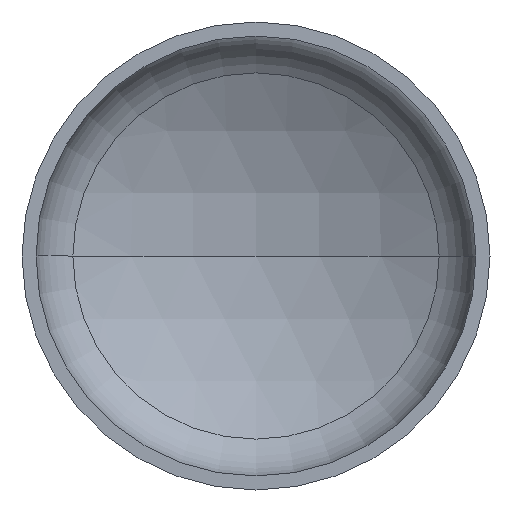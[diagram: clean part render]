
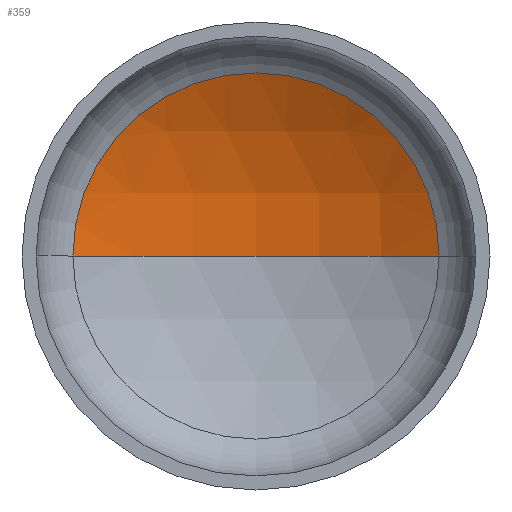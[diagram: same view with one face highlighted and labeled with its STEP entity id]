
A CAD part, front view. The second image highlights one B-rep face of the part: STEP entity #359.
In plain terms, the highlighted spherical face has radius 3040 mm.
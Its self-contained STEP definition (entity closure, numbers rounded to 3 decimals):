
#1 = CARTESIAN_POINT ( 'NONE',  ( 0., -2066.174, 0. ) ) ;
#10 = CARTESIAN_POINT ( 'NONE',  ( 0., 973.826, 0. ) ) ;
#16 = CIRCLE ( 'NONE', #27, 3040. ) ;
#25 = AXIS2_PLACEMENT_3D ( 'NONE', #1, #146, #113 ) ;
#27 = AXIS2_PLACEMENT_3D ( 'NONE', #150, #151, #404 ) ;
#28 = AXIS2_PLACEMENT_3D ( 'NONE', #179, #174, #172 ) ;
#58 = EDGE_CURVE ( 'NONE', #281, #170, #202, .T. ) ;
#60 = EDGE_CURVE ( 'NONE', #101, #281, #16, .T. ) ;
#67 = DIRECTION ( 'NONE',  ( -1., 0., 0. ) ) ;
#69 = EDGE_CURVE ( 'NONE', #101, #170, #343, .T. ) ;
#90 = CARTESIAN_POINT ( 'NONE',  ( 0., -2066.174, 0. ) ) ;
#101 = VERTEX_POINT ( 'NONE', #10 ) ;
#110 = AXIS2_PLACEMENT_3D ( 'NONE', #90, #114, #67 ) ;
#113 = DIRECTION ( 'NONE',  ( 1., 0., 0. ) ) ;
#114 = DIRECTION ( 'NONE',  ( 0., 0., -1. ) ) ;
#115 = ORIENTED_EDGE ( 'NONE', *, *, #69, .F. ) ;
#126 = CARTESIAN_POINT ( 'NONE',  ( 1487.185, 585.219, 0. ) ) ;
#141 = ORIENTED_EDGE ( 'NONE', *, *, #60, .T. ) ;
#146 = DIRECTION ( 'NONE',  ( 0., 0., 1. ) ) ;
#150 = CARTESIAN_POINT ( 'NONE',  ( 0., -2066.174, 0. ) ) ;
#151 = DIRECTION ( 'NONE',  ( 0., 0., -1. ) ) ;
#170 = VERTEX_POINT ( 'NONE', #255 ) ;
#172 = DIRECTION ( 'NONE',  ( 1., 0., 0. ) ) ;
#174 = DIRECTION ( 'NONE',  ( 0., -1., 0. ) ) ;
#179 = CARTESIAN_POINT ( 'NONE',  ( 0., 585.219, 0. ) ) ;
#202 = CIRCLE ( 'NONE', #28, 1487.185 ) ;
#240 = ORIENTED_EDGE ( 'NONE', *, *, #58, .T. ) ;
#255 = CARTESIAN_POINT ( 'NONE',  ( -1487.185, 585.219, 0. ) ) ;
#281 = VERTEX_POINT ( 'NONE', #126 ) ;
#290 = FACE_OUTER_BOUND ( 'NONE', #396, .T. ) ;
#343 = CIRCLE ( 'NONE', #25, 3040. ) ;
#359 = ADVANCED_FACE ( 'NONE', ( #290 ), #365, .F. ) ;
#365 = SPHERICAL_SURFACE ( 'NONE', #110, 3040. ) ;
#396 = EDGE_LOOP ( 'NONE', ( #115, #141, #240 ) ) ;
#404 = DIRECTION ( 'NONE',  ( -1., 0., 0. ) ) ;
